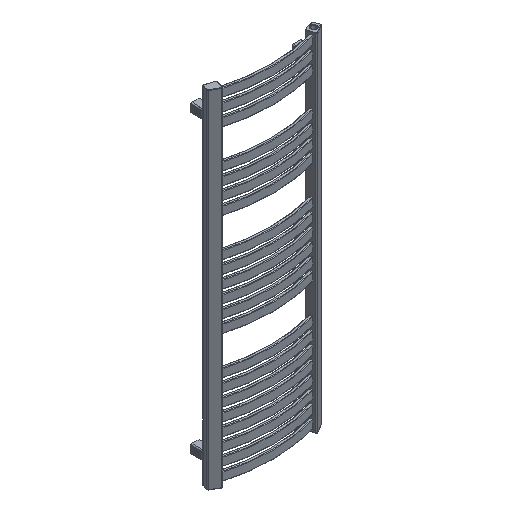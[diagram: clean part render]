
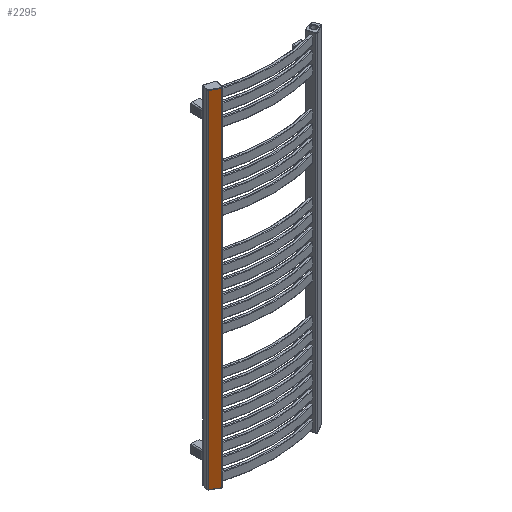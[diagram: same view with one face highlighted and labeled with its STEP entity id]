
A CAD part, isometric view. The second image highlights one B-rep face of the part: STEP entity #2295.
In plain terms, the highlighted planar face has unit normal (-0.515, -0.857, 0).
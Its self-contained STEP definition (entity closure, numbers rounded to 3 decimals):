
#249=CARTESIAN_POINT('',(-198.242,-5.701,1.5));
#250=VERTEX_POINT('',#249);
#298=CARTESIAN_POINT('',(-168.958,-23.297,1.5));
#299=VERTEX_POINT('',#298);
#307=CARTESIAN_POINT('',(-168.958,-23.297,1.5));
#308=DIRECTION('',(-0.857,0.515,0.0));
#309=VECTOR('',#308,34.164);
#310=LINE('',#307,#309);
#311=EDGE_CURVE('',#299,#250,#310,.T.);
#524=CARTESIAN_POINT('',(-198.242,-5.701,1218.5));
#525=VERTEX_POINT('',#524);
#526=CARTESIAN_POINT('',(-198.242,-5.701,1.5));
#527=DIRECTION('',(0.0,0.0,1.0));
#528=VECTOR('',#527,1217.0);
#529=LINE('',#526,#528);
#530=EDGE_CURVE('',#250,#525,#529,.T.);
#582=CARTESIAN_POINT('',(-168.958,-23.297,1218.5));
#583=VERTEX_POINT('',#582);
#600=CARTESIAN_POINT('',(-198.242,-5.701,1218.5));
#601=DIRECTION('',(0.857,-0.515,0.0));
#602=VECTOR('',#601,34.164);
#603=LINE('',#600,#602);
#604=EDGE_CURVE('',#525,#583,#603,.T.);
#2275=CARTESIAN_POINT('',(-168.958,-23.297,1218.5));
#2276=DIRECTION('',(0.0,0.0,-1.0));
#2277=VECTOR('',#2276,1217.0);
#2278=LINE('',#2275,#2277);
#2279=EDGE_CURVE('',#583,#299,#2278,.T.);
#2284=CARTESIAN_POINT('',(-165.048,-25.646,0.0));
#2285=DIRECTION('',(-0.515,-0.857,0.0));
#2286=DIRECTION('',(0.0,0.0,1.0));
#2287=AXIS2_PLACEMENT_3D('',#2284,#2285,#2286);
#2288=PLANE('',#2287);
#2289=ORIENTED_EDGE('',*,*,#311,.F.);
#2290=ORIENTED_EDGE('',*,*,#2279,.F.);
#2291=ORIENTED_EDGE('',*,*,#604,.F.);
#2292=ORIENTED_EDGE('',*,*,#530,.F.);
#2293=EDGE_LOOP('',(#2289,#2290,#2291,#2292));
#2294=FACE_OUTER_BOUND('',#2293,.T.);
#2295=ADVANCED_FACE('',(#2294),#2288,.T.);
